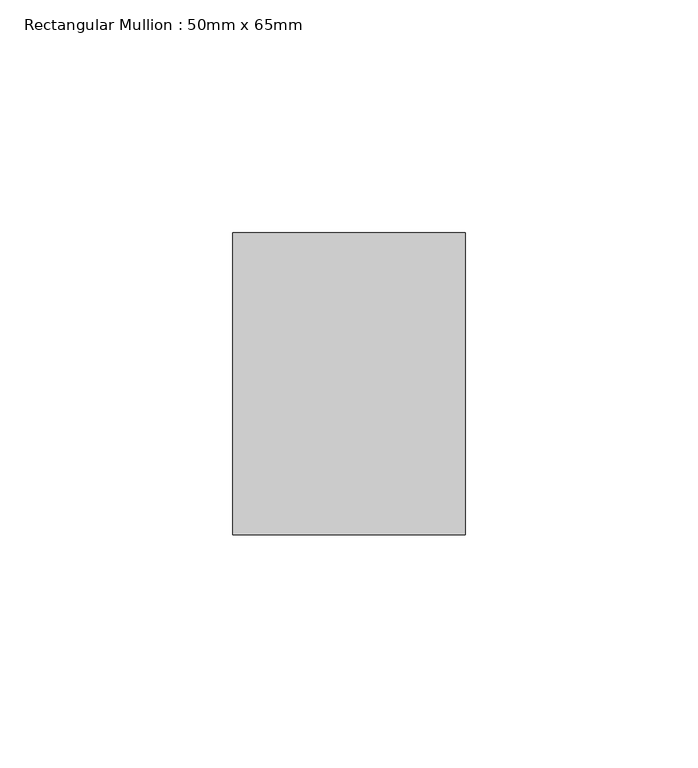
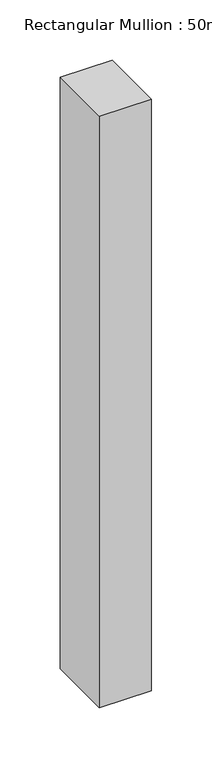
"""IFC4 building model written with IfcOpenShell, lengths in millimetres: member geometry, Rectangular Mullion : 50mm x 65mm."""

from ifc_helpers import new_model, si_unit, frame, origin, place, context, project, spatial, polyline, outline, extrude, source, transform, mapped, element, save


def rectangular_mullion_50mm_x_65mm_a82a1849(model_context):
    return source(origin(), model_context, "Body", "SweptSolid", [
        extrude(outline(polyline([(25.0, 32.5), (25.0, -32.5), (-25.0, -32.5), (-25.0, 32.5), (25.0, 32.5)])), frame((0.0, 0.0, -600.0), z_axis=(0.0, 0.0, 1.0), x_axis=(1.0, 0.0, 0.0)), (0.0, 0.0, 1.0), 600.0),
    ])


if __name__ == "__main__":
    model = new_model("IFC4")
    model_context = context("Model", 3, world=origin())
    ifc_project = project(units=[si_unit("LENGTHUNIT", "METRE", prefix="MILLI")], contexts=[model_context])
    site = spatial("IfcSite", under=ifc_project)
    building = spatial("IfcBuilding", under=site)
    placement = place(None, origin())
    rectangular_mullion_50mm_x_65mm_shape = rectangular_mullion_50mm_x_65mm_a82a1849(model_context)
    element("IfcMember", 1, ObjectType="Rectangular Mullion : 50mm x 65mm", at=placement, inside=building, context=model_context, shape_type="MappedRepresentation", body=[
        mapped(rectangular_mullion_50mm_x_65mm_shape, transform((0.0, 0.0, 0.0), x_axis=(1.0, 0.0, 0.0), y_axis=(0.0, 1.0, 0.0), z_axis=(0.0, 0.0, 1.0))),
    ])
    save(model, "model.ifc")
